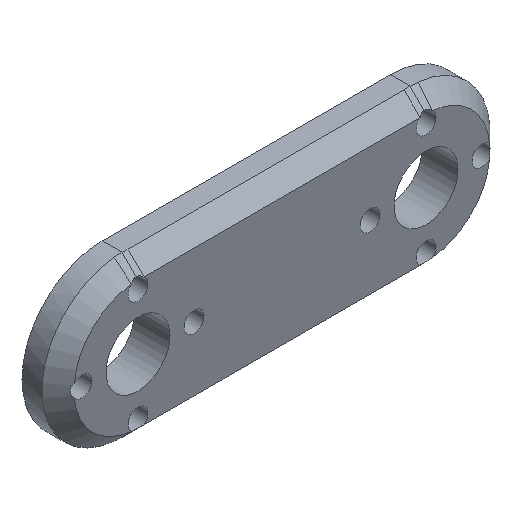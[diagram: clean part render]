
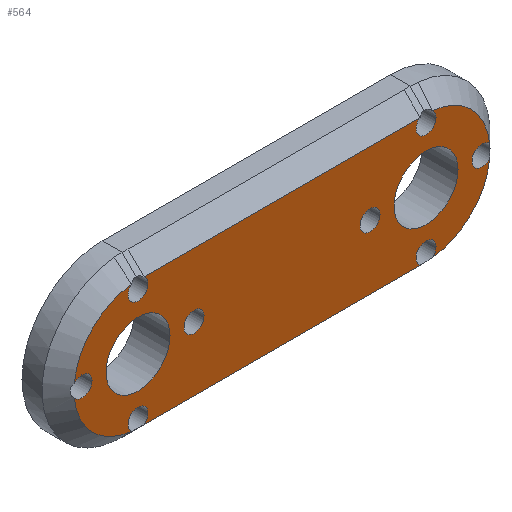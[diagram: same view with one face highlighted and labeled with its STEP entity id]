
A CAD part, isometric view. The second image highlights one B-rep face of the part: STEP entity #564.
In plain terms, the highlighted planar face has unit normal (0, -1, 0).
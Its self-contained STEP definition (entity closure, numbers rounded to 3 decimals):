
#15=FACE_BOUND('',#101,.T.);
#16=FACE_BOUND('',#102,.T.);
#17=FACE_BOUND('',#103,.T.);
#18=FACE_BOUND('',#104,.T.);
#44=PLANE('',#601);
#72=FACE_OUTER_BOUND('',#100,.T.);
#100=EDGE_LOOP('',(#462,#463,#464,#465,#466,#467,#468,#469,#470,#471,#472,
#473,#474,#475,#476,#477,#478));
#101=EDGE_LOOP('',(#479));
#102=EDGE_LOOP('',(#480));
#103=EDGE_LOOP('',(#481));
#104=EDGE_LOOP('',(#482));
#131=LINE('',#847,#163);
#139=LINE('',#1031,#171);
#163=VECTOR('',#648,10.);
#171=VECTOR('',#666,10.);
#189=CIRCLE('',#578,8.);
#191=CIRCLE('',#580,8.);
#192=CIRCLE('',#583,8.);
#194=CIRCLE('',#585,8.);
#195=CIRCLE('',#588,1.25);
#197=CIRCLE('',#590,1.25);
#199=CIRCLE('',#593,1.25);
#200=CIRCLE('',#595,1.25);
#202=CIRCLE('',#597,1.25);
#204=CIRCLE('',#602,1.25);
#205=CIRCLE('',#603,1.25);
#206=CIRCLE('',#604,1.25);
#207=CIRCLE('',#605,1.25);
#208=CIRCLE('',#606,1.25);
#209=CIRCLE('',#607,1.25);
#210=CIRCLE('',#608,4.);
#211=CIRCLE('',#609,4.);
#212=CIRCLE('',#610,1.25);
#213=CIRCLE('',#611,1.25);
#241=VERTEX_POINT('',#772);
#242=VERTEX_POINT('',#773);
#243=VERTEX_POINT('',#788);
#246=VERTEX_POINT('',#794);
#249=VERTEX_POINT('',#840);
#252=VERTEX_POINT('',#845);
#255=VERTEX_POINT('',#912);
#257=VERTEX_POINT('',#922);
#260=VERTEX_POINT('',#928);
#261=VERTEX_POINT('',#930);
#264=VERTEX_POINT('',#1024);
#267=VERTEX_POINT('',#1029);
#270=VERTEX_POINT('',#1124);
#273=VERTEX_POINT('',#1136);
#278=VERTEX_POINT('',#1153);
#279=VERTEX_POINT('',#1156);
#280=VERTEX_POINT('',#1159);
#281=VERTEX_POINT('',#1162);
#282=VERTEX_POINT('',#1164);
#283=VERTEX_POINT('',#1166);
#284=VERTEX_POINT('',#1168);
#294=EDGE_CURVE('',#241,#243,#189,.T.);
#298=EDGE_CURVE('',#246,#242,#191,.T.);
#305=EDGE_CURVE('',#252,#249,#131,.T.);
#312=EDGE_CURVE('',#255,#257,#192,.T.);
#316=EDGE_CURVE('',#260,#261,#194,.T.);
#326=EDGE_CURVE('',#267,#264,#139,.T.);
#334=EDGE_CURVE('',#270,#257,#195,.T.);
#337=EDGE_CURVE('',#252,#270,#197,.T.);
#340=EDGE_CURVE('',#255,#261,#199,.T.);
#341=EDGE_CURVE('',#273,#264,#200,.T.);
#344=EDGE_CURVE('',#260,#273,#202,.T.);
#350=EDGE_CURVE('',#267,#278,#204,.T.);
#351=EDGE_CURVE('',#278,#243,#205,.T.);
#352=EDGE_CURVE('',#241,#279,#206,.T.);
#353=EDGE_CURVE('',#279,#242,#207,.T.);
#354=EDGE_CURVE('',#246,#280,#208,.T.);
#355=EDGE_CURVE('',#280,#249,#209,.T.);
#356=EDGE_CURVE('',#281,#281,#210,.T.);
#357=EDGE_CURVE('',#282,#282,#211,.T.);
#358=EDGE_CURVE('',#283,#283,#212,.T.);
#359=EDGE_CURVE('',#284,#284,#213,.T.);
#462=ORIENTED_EDGE('',*,*,#305,.F.);
#463=ORIENTED_EDGE('',*,*,#337,.T.);
#464=ORIENTED_EDGE('',*,*,#334,.T.);
#465=ORIENTED_EDGE('',*,*,#312,.F.);
#466=ORIENTED_EDGE('',*,*,#340,.T.);
#467=ORIENTED_EDGE('',*,*,#316,.F.);
#468=ORIENTED_EDGE('',*,*,#344,.T.);
#469=ORIENTED_EDGE('',*,*,#341,.T.);
#470=ORIENTED_EDGE('',*,*,#326,.F.);
#471=ORIENTED_EDGE('',*,*,#350,.T.);
#472=ORIENTED_EDGE('',*,*,#351,.T.);
#473=ORIENTED_EDGE('',*,*,#294,.F.);
#474=ORIENTED_EDGE('',*,*,#352,.T.);
#475=ORIENTED_EDGE('',*,*,#353,.T.);
#476=ORIENTED_EDGE('',*,*,#298,.F.);
#477=ORIENTED_EDGE('',*,*,#354,.T.);
#478=ORIENTED_EDGE('',*,*,#355,.T.);
#479=ORIENTED_EDGE('',*,*,#356,.T.);
#480=ORIENTED_EDGE('',*,*,#357,.T.);
#481=ORIENTED_EDGE('',*,*,#358,.T.);
#482=ORIENTED_EDGE('',*,*,#359,.T.);
#564=ADVANCED_FACE('',(#72,#15,#16,#17,#18),#44,.T.);
#578=AXIS2_PLACEMENT_3D('',#789,#634,#635);
#580=AXIS2_PLACEMENT_3D('',#796,#640,#641);
#583=AXIS2_PLACEMENT_3D('',#923,#652,#653);
#585=AXIS2_PLACEMENT_3D('',#931,#658,#659);
#588=AXIS2_PLACEMENT_3D('',#1125,#670,#671);
#590=AXIS2_PLACEMENT_3D('',#1129,#675,#676);
#593=AXIS2_PLACEMENT_3D('',#1134,#682,#683);
#595=AXIS2_PLACEMENT_3D('',#1137,#686,#687);
#597=AXIS2_PLACEMENT_3D('',#1141,#691,#692);
#601=AXIS2_PLACEMENT_3D('',#1152,#703,#704);
#602=AXIS2_PLACEMENT_3D('',#1154,#705,#706);
#603=AXIS2_PLACEMENT_3D('',#1155,#707,#708);
#604=AXIS2_PLACEMENT_3D('',#1157,#709,#710);
#605=AXIS2_PLACEMENT_3D('',#1158,#711,#712);
#606=AXIS2_PLACEMENT_3D('',#1160,#713,#714);
#607=AXIS2_PLACEMENT_3D('',#1161,#715,#716);
#608=AXIS2_PLACEMENT_3D('',#1163,#717,#718);
#609=AXIS2_PLACEMENT_3D('',#1165,#719,#720);
#610=AXIS2_PLACEMENT_3D('',#1167,#721,#722);
#611=AXIS2_PLACEMENT_3D('',#1169,#723,#724);
#634=DIRECTION('center_axis',(0.,1.,0.));
#635=DIRECTION('ref_axis',(1.,0.,0.));
#640=DIRECTION('center_axis',(0.,1.,0.));
#641=DIRECTION('ref_axis',(1.,0.,0.));
#648=DIRECTION('',(1.,0.,0.));
#652=DIRECTION('center_axis',(0.,1.,0.));
#653=DIRECTION('ref_axis',(-1.,0.,0.));
#658=DIRECTION('center_axis',(0.,1.,0.));
#659=DIRECTION('ref_axis',(-1.,0.,0.));
#666=DIRECTION('',(-1.,0.,0.));
#670=DIRECTION('center_axis',(0.,1.,0.));
#671=DIRECTION('ref_axis',(1.,0.,0.));
#675=DIRECTION('center_axis',(0.,1.,0.));
#676=DIRECTION('ref_axis',(1.,0.,0.));
#682=DIRECTION('center_axis',(0.,1.,0.));
#683=DIRECTION('ref_axis',(1.,0.,0.));
#686=DIRECTION('center_axis',(0.,1.,0.));
#687=DIRECTION('ref_axis',(1.,0.,0.));
#691=DIRECTION('center_axis',(0.,1.,0.));
#692=DIRECTION('ref_axis',(1.,0.,0.));
#703=DIRECTION('center_axis',(0.,-1.,0.));
#704=DIRECTION('ref_axis',(1.,0.,0.));
#705=DIRECTION('center_axis',(0.,1.,0.));
#706=DIRECTION('ref_axis',(1.,0.,0.));
#707=DIRECTION('center_axis',(0.,1.,0.));
#708=DIRECTION('ref_axis',(1.,0.,0.));
#709=DIRECTION('center_axis',(0.,1.,0.));
#710=DIRECTION('ref_axis',(1.,0.,0.));
#711=DIRECTION('center_axis',(0.,1.,0.));
#712=DIRECTION('ref_axis',(1.,0.,0.));
#713=DIRECTION('center_axis',(0.,1.,0.));
#714=DIRECTION('ref_axis',(1.,0.,0.));
#715=DIRECTION('center_axis',(0.,1.,0.));
#716=DIRECTION('ref_axis',(1.,0.,0.));
#717=DIRECTION('center_axis',(0.,1.,0.));
#718=DIRECTION('ref_axis',(1.,0.,0.));
#719=DIRECTION('center_axis',(0.,1.,0.));
#720=DIRECTION('ref_axis',(1.,0.,0.));
#721=DIRECTION('center_axis',(0.,1.,0.));
#722=DIRECTION('ref_axis',(1.,0.,0.));
#723=DIRECTION('center_axis',(0.,1.,0.));
#724=DIRECTION('ref_axis',(1.,0.,0.));
#772=CARTESIAN_POINT('',(53.96,-29.4,-0.801));
#773=CARTESIAN_POINT('',(53.96,-29.4,0.801));
#788=CARTESIAN_POINT('',(46.801,-29.4,-7.96));
#789=CARTESIAN_POINT('Origin',(46.,-29.4,0.));
#794=CARTESIAN_POINT('',(46.801,-29.4,7.96));
#796=CARTESIAN_POINT('Origin',(46.,-29.4,0.));
#840=CARTESIAN_POINT('',(45.25,-29.4,8.));
#845=CARTESIAN_POINT('',(10.75,-29.4,8.));
#847=CARTESIAN_POINT('',(37.,-29.4,8.));
#912=CARTESIAN_POINT('',(2.04,-29.4,0.801));
#922=CARTESIAN_POINT('',(9.199,-29.4,7.96));
#923=CARTESIAN_POINT('Origin',(10.,-29.4,0.));
#928=CARTESIAN_POINT('',(9.199,-29.4,-7.96));
#930=CARTESIAN_POINT('',(2.04,-29.4,-0.801));
#931=CARTESIAN_POINT('Origin',(10.,-29.4,0.));
#1024=CARTESIAN_POINT('',(10.75,-29.4,-8.));
#1029=CARTESIAN_POINT('',(45.25,-29.4,-8.));
#1031=CARTESIAN_POINT('',(19.,-29.4,-8.));
#1124=CARTESIAN_POINT('',(8.75,-29.4,7.));
#1125=CARTESIAN_POINT('Origin',(10.,-29.4,7.));
#1129=CARTESIAN_POINT('Origin',(10.,-29.4,7.));
#1134=CARTESIAN_POINT('Origin',(3.,-29.4,0.));
#1136=CARTESIAN_POINT('',(8.75,-29.4,-7.));
#1137=CARTESIAN_POINT('Origin',(10.,-29.4,-7.));
#1141=CARTESIAN_POINT('Origin',(10.,-29.4,-7.));
#1152=CARTESIAN_POINT('Origin',(28.,-29.4,0.));
#1153=CARTESIAN_POINT('',(44.75,-29.4,-7.));
#1154=CARTESIAN_POINT('Origin',(46.,-29.4,-7.));
#1155=CARTESIAN_POINT('Origin',(46.,-29.4,-7.));
#1156=CARTESIAN_POINT('',(51.75,-29.4,0.));
#1157=CARTESIAN_POINT('Origin',(53.,-29.4,0.));
#1158=CARTESIAN_POINT('Origin',(53.,-29.4,0.));
#1159=CARTESIAN_POINT('',(44.75,-29.4,7.));
#1160=CARTESIAN_POINT('Origin',(46.,-29.4,7.));
#1161=CARTESIAN_POINT('Origin',(46.,-29.4,7.));
#1162=CARTESIAN_POINT('',(42.,-29.4,0.));
#1163=CARTESIAN_POINT('Origin',(46.,-29.4,0.));
#1164=CARTESIAN_POINT('',(6.,-29.4,0.));
#1165=CARTESIAN_POINT('Origin',(10.,-29.4,0.));
#1166=CARTESIAN_POINT('',(37.75,-29.4,0.));
#1167=CARTESIAN_POINT('Origin',(39.,-29.4,0.));
#1168=CARTESIAN_POINT('',(15.75,-29.4,0.));
#1169=CARTESIAN_POINT('Origin',(17.,-29.4,0.));
